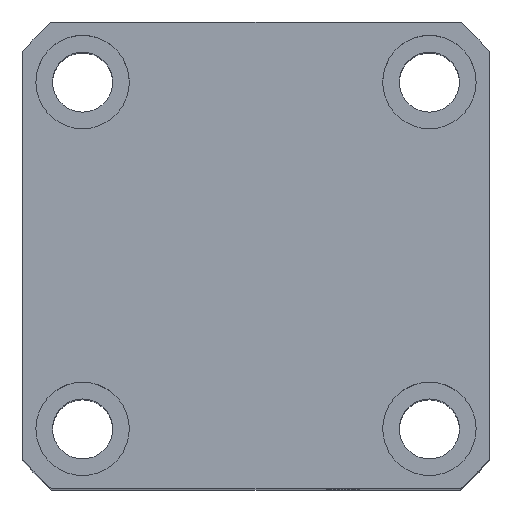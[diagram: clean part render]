
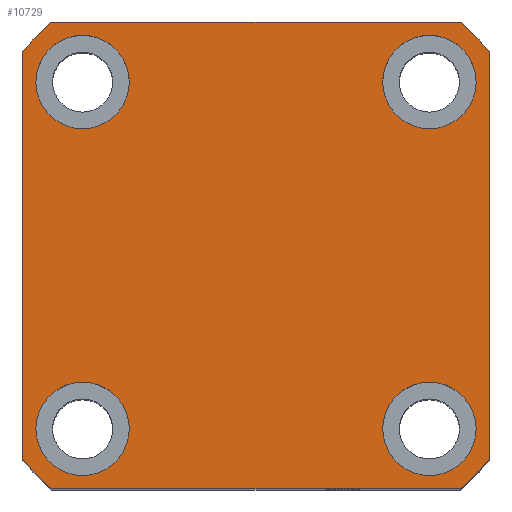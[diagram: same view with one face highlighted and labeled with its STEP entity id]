
A CAD part, top view. The second image highlights one B-rep face of the part: STEP entity #10729.
In plain terms, the highlighted planar face has unit normal (0, 0, 1).
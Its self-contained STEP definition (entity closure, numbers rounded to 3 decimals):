
#33 = VERTEX_POINT ( 'NONE', #3660 ) ;
#50 = EDGE_CURVE ( 'NONE', #10700, #6831, #2746, .T. ) ;
#63 = EDGE_CURVE ( 'NONE', #279, #13343, #11173, .T. ) ;
#279 = VERTEX_POINT ( 'NONE', #3028 ) ;
#314 = DIRECTION ( 'NONE',  ( 0., 0., 1. ) ) ;
#374 = LINE ( 'NONE', #4501, #11638 ) ;
#497 = DIRECTION ( 'NONE',  ( 0., 0., 1. ) ) ;
#564 = VECTOR ( 'NONE', #13706, 1000. ) ;
#779 = CARTESIAN_POINT ( 'NONE',  ( 26., -26., 95. ) ) ;
#849 = DIRECTION ( 'NONE',  ( 1., 0., 0. ) ) ;
#884 = EDGE_LOOP ( 'NONE', ( #1811, #9277, #12964, #3493, #4344, #9057, #8417, #4872 ) ) ;
#991 = CARTESIAN_POINT ( 'NONE',  ( 0., 0., 95. ) ) ;
#1033 = CARTESIAN_POINT ( 'NONE',  ( -35., 35., 95. ) ) ;
#1255 = EDGE_LOOP ( 'NONE', ( #12174, #6249 ) ) ;
#1297 = CARTESIAN_POINT ( 'NONE',  ( 0., 0., 95. ) ) ;
#1304 = EDGE_CURVE ( 'NONE', #5788, #7539, #2920, .T. ) ;
#1625 = DIRECTION ( 'NONE',  ( 0., 0., 1. ) ) ;
#1750 = AXIS2_PLACEMENT_3D ( 'NONE', #779, #4016, #12427 ) ;
#1773 = DIRECTION ( 'NONE',  ( 0., 0., 1. ) ) ;
#1811 = ORIENTED_EDGE ( 'NONE', *, *, #5729, .T. ) ;
#1902 = FACE_OUTER_BOUND ( 'NONE', #884, .T. ) ;
#1994 = EDGE_CURVE ( 'NONE', #11225, #3420, #8714, .T. ) ;
#2040 = CARTESIAN_POINT ( 'NONE',  ( 19., 26., 95. ) ) ;
#2043 = DIRECTION ( 'NONE',  ( 1., 0., 0. ) ) ;
#2086 = CARTESIAN_POINT ( 'NONE',  ( 35., 30.615, 95. ) ) ;
#2196 = CIRCLE ( 'NONE', #6847, 7. ) ;
#2349 = DIRECTION ( 'NONE',  ( 1., 0., 0. ) ) ;
#2353 = CIRCLE ( 'NONE', #4596, 7. ) ;
#2361 = CIRCLE ( 'NONE', #9457, 7. ) ;
#2435 = CARTESIAN_POINT ( 'NONE',  ( -26., 26., 95. ) ) ;
#2444 = AXIS2_PLACEMENT_3D ( 'NONE', #9200, #1773, #7150 ) ;
#2614 = DIRECTION ( 'NONE',  ( 1., 0., 0. ) ) ;
#2698 = VERTEX_POINT ( 'NONE', #7999 ) ;
#2726 = EDGE_LOOP ( 'NONE', ( #3429, #11890 ) ) ;
#2746 = CIRCLE ( 'NONE', #2444, 7. ) ;
#2920 = CIRCLE ( 'NONE', #11332, 46.5 ) ;
#3028 = CARTESIAN_POINT ( 'NONE',  ( 19., -26., 95. ) ) ;
#3068 = CARTESIAN_POINT ( 'NONE',  ( -35., 35., 95. ) ) ;
#3371 = LINE ( 'NONE', #1033, #564 ) ;
#3386 = VERTEX_POINT ( 'NONE', #11423 ) ;
#3420 = VERTEX_POINT ( 'NONE', #11464 ) ;
#3429 = ORIENTED_EDGE ( 'NONE', *, *, #5465, .F. ) ;
#3473 = CARTESIAN_POINT ( 'NONE',  ( 33., -26., 95. ) ) ;
#3493 = ORIENTED_EDGE ( 'NONE', *, *, #1304, .T. ) ;
#3498 = DIRECTION ( 'NONE',  ( 0., 0., 1. ) ) ;
#3502 = DIRECTION ( 'NONE',  ( 1., 0., 0. ) ) ;
#3545 = CARTESIAN_POINT ( 'NONE',  ( -33., 26., 95. ) ) ;
#3660 = CARTESIAN_POINT ( 'NONE',  ( -35., -30.615, 95. ) ) ;
#3693 = CIRCLE ( 'NONE', #4155, 7. ) ;
#3727 = DIRECTION ( 'NONE',  ( 0., 0., 1. ) ) ;
#3861 = VECTOR ( 'NONE', #5136, 1000. ) ;
#3871 = CIRCLE ( 'NONE', #6897, 7. ) ;
#3925 = CARTESIAN_POINT ( 'NONE',  ( -35., 30.615, 95. ) ) ;
#3966 = DIRECTION ( 'NONE',  ( 0., 0., 1. ) ) ;
#3976 = DIRECTION ( 'NONE',  ( 0., 0., 1. ) ) ;
#4016 = DIRECTION ( 'NONE',  ( 0., 0., 1. ) ) ;
#4155 = AXIS2_PLACEMENT_3D ( 'NONE', #6663, #314, #7739 ) ;
#4295 = EDGE_CURVE ( 'NONE', #2698, #3386, #3871, .T. ) ;
#4344 = ORIENTED_EDGE ( 'NONE', *, *, #6013, .T. ) ;
#4501 = CARTESIAN_POINT ( 'NONE',  ( 35., 35., 95. ) ) ;
#4573 = EDGE_LOOP ( 'NONE', ( #13646, #6738 ) ) ;
#4596 = AXIS2_PLACEMENT_3D ( 'NONE', #7980, #1625, #9046 ) ;
#4713 = FACE_BOUND ( 'NONE', #2726, .T. ) ;
#4792 = CARTESIAN_POINT ( 'NONE',  ( 0., 0., 95. ) ) ;
#4872 = ORIENTED_EDGE ( 'NONE', *, *, #1994, .T. ) ;
#5062 = FACE_BOUND ( 'NONE', #4573, .T. ) ;
#5136 = DIRECTION ( 'NONE',  ( 1., 0., 0. ) ) ;
#5195 = AXIS2_PLACEMENT_3D ( 'NONE', #6135, #7192, #849 ) ;
#5433 = CARTESIAN_POINT ( 'NONE',  ( -26., -26., 95. ) ) ;
#5465 = EDGE_CURVE ( 'NONE', #6546, #8406, #9819, .T. ) ;
#5581 = CARTESIAN_POINT ( 'NONE',  ( -30.615, 35., 95. ) ) ;
#5729 = EDGE_CURVE ( 'NONE', #3420, #10050, #374, .T. ) ;
#5788 = VERTEX_POINT ( 'NONE', #5581 ) ;
#5837 = CARTESIAN_POINT ( 'NONE',  ( 30.615, -35., 95. ) ) ;
#6013 = EDGE_CURVE ( 'NONE', #7539, #33, #13467, .T. ) ;
#6036 = DIRECTION ( 'NONE',  ( 0., -1., 0. ) ) ;
#6084 = PLANE ( 'NONE',  #5195 ) ;
#6135 = CARTESIAN_POINT ( 'NONE',  ( 0., 0., 95. ) ) ;
#6249 = ORIENTED_EDGE ( 'NONE', *, *, #4295, .F. ) ;
#6264 = EDGE_CURVE ( 'NONE', #3386, #2698, #3693, .T. ) ;
#6491 = DIRECTION ( 'NONE',  ( 1., 0., 0. ) ) ;
#6546 = VERTEX_POINT ( 'NONE', #11085 ) ;
#6549 = EDGE_CURVE ( 'NONE', #6831, #10700, #2353, .T. ) ;
#6663 = CARTESIAN_POINT ( 'NONE',  ( -26., -26., 95. ) ) ;
#6738 = ORIENTED_EDGE ( 'NONE', *, *, #63, .F. ) ;
#6831 = VERTEX_POINT ( 'NONE', #2040 ) ;
#6847 = AXIS2_PLACEMENT_3D ( 'NONE', #2435, #9843, #3502 ) ;
#6897 = AXIS2_PLACEMENT_3D ( 'NONE', #5433, #12809, #6491 ) ;
#7064 = AXIS2_PLACEMENT_3D ( 'NONE', #4792, #3727, #2614 ) ;
#7143 = CARTESIAN_POINT ( 'NONE',  ( 33., 26., 95. ) ) ;
#7150 = DIRECTION ( 'NONE',  ( 1., 0., 0. ) ) ;
#7192 = DIRECTION ( 'NONE',  ( 0., 0., 1. ) ) ;
#7232 = EDGE_CURVE ( 'NONE', #8406, #6546, #2196, .T. ) ;
#7524 = FACE_BOUND ( 'NONE', #1255, .T. ) ;
#7539 = VERTEX_POINT ( 'NONE', #3925 ) ;
#7739 = DIRECTION ( 'NONE',  ( 1., 0., 0. ) ) ;
#7980 = CARTESIAN_POINT ( 'NONE',  ( 26., 26., 95. ) ) ;
#7999 = CARTESIAN_POINT ( 'NONE',  ( -33., -26., 95. ) ) ;
#8046 = AXIS2_PLACEMENT_3D ( 'NONE', #991, #8415, #2043 ) ;
#8226 = EDGE_CURVE ( 'NONE', #33, #10441, #8805, .T. ) ;
#8406 = VERTEX_POINT ( 'NONE', #3545 ) ;
#8415 = DIRECTION ( 'NONE',  ( 0., 0., 1. ) ) ;
#8417 = ORIENTED_EDGE ( 'NONE', *, *, #12472, .T. ) ;
#8714 = CIRCLE ( 'NONE', #7064, 46.5 ) ;
#8805 = CIRCLE ( 'NONE', #10570, 46.5 ) ;
#9046 = DIRECTION ( 'NONE',  ( 1., 0., 0. ) ) ;
#9057 = ORIENTED_EDGE ( 'NONE', *, *, #8226, .T. ) ;
#9072 = CARTESIAN_POINT ( 'NONE',  ( -30.615, -35., 95. ) ) ;
#9200 = CARTESIAN_POINT ( 'NONE',  ( 26., 26., 95. ) ) ;
#9277 = ORIENTED_EDGE ( 'NONE', *, *, #10851, .T. ) ;
#9449 = CARTESIAN_POINT ( 'NONE',  ( -35., -35., 95. ) ) ;
#9457 = AXIS2_PLACEMENT_3D ( 'NONE', #10286, #3976, #11360 ) ;
#9518 = LINE ( 'NONE', #9449, #3861 ) ;
#9819 = CIRCLE ( 'NONE', #10350, 7. ) ;
#9842 = CARTESIAN_POINT ( 'NONE',  ( 0., 0., 95. ) ) ;
#9843 = DIRECTION ( 'NONE',  ( 0., 0., 1. ) ) ;
#9913 = VERTEX_POINT ( 'NONE', #10360 ) ;
#10050 = VERTEX_POINT ( 'NONE', #2086 ) ;
#10280 = CARTESIAN_POINT ( 'NONE',  ( -26., 26., 95. ) ) ;
#10286 = CARTESIAN_POINT ( 'NONE',  ( 26., -26., 95. ) ) ;
#10350 = AXIS2_PLACEMENT_3D ( 'NONE', #10280, #3966, #11354 ) ;
#10360 = CARTESIAN_POINT ( 'NONE',  ( 30.615, 35., 95. ) ) ;
#10441 = VERTEX_POINT ( 'NONE', #9072 ) ;
#10570 = AXIS2_PLACEMENT_3D ( 'NONE', #9842, #3498, #10888 ) ;
#10700 = VERTEX_POINT ( 'NONE', #7143 ) ;
#10729 = ADVANCED_FACE ( 'NONE', ( #7524, #5062, #13136, #4713, #1902 ), #6084, .T. ) ;
#10851 = EDGE_CURVE ( 'NONE', #10050, #9913, #12496, .T. ) ;
#10888 = DIRECTION ( 'NONE',  ( 1., 0., 0. ) ) ;
#10915 = EDGE_CURVE ( 'NONE', #9913, #5788, #3371, .T. ) ;
#10992 = ORIENTED_EDGE ( 'NONE', *, *, #50, .F. ) ;
#11085 = CARTESIAN_POINT ( 'NONE',  ( -19., 26., 95. ) ) ;
#11173 = CIRCLE ( 'NONE', #1750, 7. ) ;
#11225 = VERTEX_POINT ( 'NONE', #5837 ) ;
#11332 = AXIS2_PLACEMENT_3D ( 'NONE', #1297, #497, #2349 ) ;
#11354 = DIRECTION ( 'NONE',  ( 1., 0., 0. ) ) ;
#11360 = DIRECTION ( 'NONE',  ( 1., 0., 0. ) ) ;
#11423 = CARTESIAN_POINT ( 'NONE',  ( -19., -26., 95. ) ) ;
#11464 = CARTESIAN_POINT ( 'NONE',  ( 35., -30.615, 95. ) ) ;
#11638 = VECTOR ( 'NONE', #11895, 1000. ) ;
#11890 = ORIENTED_EDGE ( 'NONE', *, *, #7232, .F. ) ;
#11895 = DIRECTION ( 'NONE',  ( 0., 1., 0. ) ) ;
#12174 = ORIENTED_EDGE ( 'NONE', *, *, #6264, .F. ) ;
#12364 = EDGE_CURVE ( 'NONE', #13343, #279, #2361, .T. ) ;
#12427 = DIRECTION ( 'NONE',  ( 1., 0., 0. ) ) ;
#12472 = EDGE_CURVE ( 'NONE', #10441, #11225, #9518, .T. ) ;
#12496 = CIRCLE ( 'NONE', #8046, 46.5 ) ;
#12785 = VECTOR ( 'NONE', #6036, 1000. ) ;
#12809 = DIRECTION ( 'NONE',  ( 0., 0., 1. ) ) ;
#12964 = ORIENTED_EDGE ( 'NONE', *, *, #10915, .T. ) ;
#13136 = FACE_BOUND ( 'NONE', #13598, .T. ) ;
#13343 = VERTEX_POINT ( 'NONE', #3473 ) ;
#13435 = ORIENTED_EDGE ( 'NONE', *, *, #6549, .F. ) ;
#13467 = LINE ( 'NONE', #3068, #12785 ) ;
#13598 = EDGE_LOOP ( 'NONE', ( #10992, #13435 ) ) ;
#13646 = ORIENTED_EDGE ( 'NONE', *, *, #12364, .F. ) ;
#13706 = DIRECTION ( 'NONE',  ( -1., 0., 0. ) ) ;
